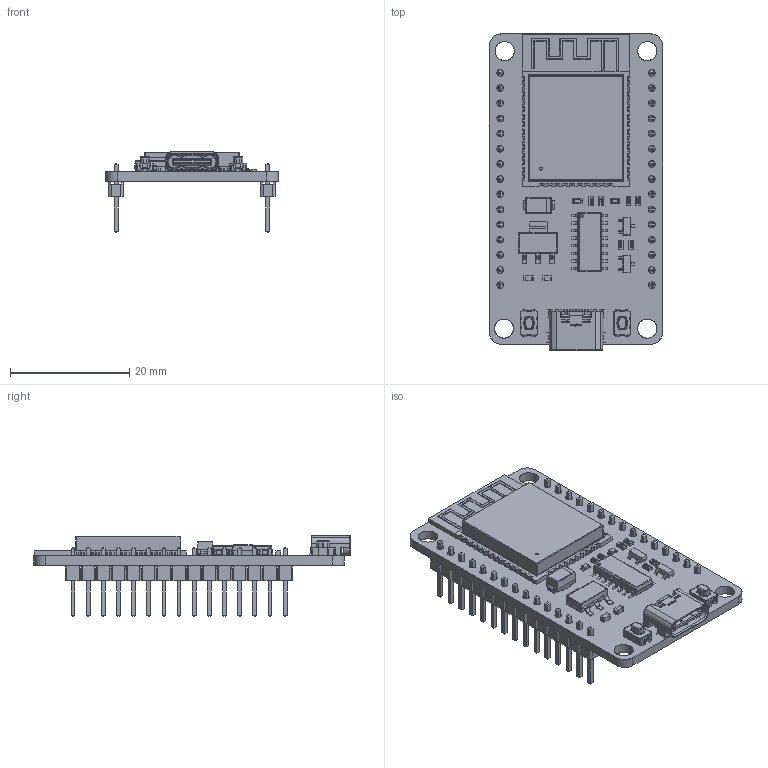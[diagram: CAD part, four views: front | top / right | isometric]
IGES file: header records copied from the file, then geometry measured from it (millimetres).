
Start section: SolidWorks IGES file using analytic representation for surfaces
Global section: file name: K:\dev\CJMCU-4232\esp32_30pin.IGS; native system: SolidWorks 2021; preprocessor: SolidWorks 2021; author: ke-klvi; date: 231208.102252; units: millimetre
Bounding box: 29 x 52.96 x 13.53 mm (x, y, z)
Surface area: 8385.2 mm2 (no closed solid volume)
Topology: 0 solids, 0 shells, 4829 faces, 29917 edges, 29789 vertices
Faces by surface type: bspline 3558, revolution 1271
